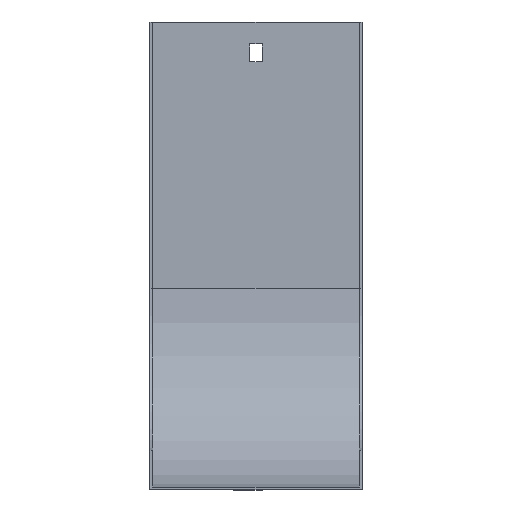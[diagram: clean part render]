
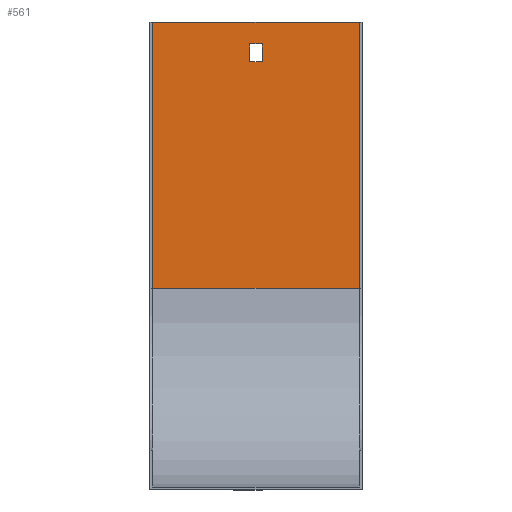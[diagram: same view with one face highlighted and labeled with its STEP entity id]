
A CAD part, front view. The second image highlights one B-rep face of the part: STEP entity #561.
In plain terms, the highlighted planar face has unit normal (0, -1, 0).
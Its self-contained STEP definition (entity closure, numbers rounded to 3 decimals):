
#1 = CARTESIAN_POINT ( 'NONE',  ( 52., -1.5, -134. ) ) ;
#12 = CARTESIAN_POINT ( 'NONE',  ( -52., -1.5, -134. ) ) ;
#35 = VECTOR ( 'NONE', #171, 1000. ) ;
#37 = CARTESIAN_POINT ( 'NONE',  ( 52., -1.5, -134. ) ) ;
#79 = CARTESIAN_POINT ( 'NONE',  ( 53.5, -1.5, 0. ) ) ;
#96 = DIRECTION ( 'NONE',  ( -1., 0., 0. ) ) ;
#108 = VECTOR ( 'NONE', #612, 1000. ) ;
#112 = VERTEX_POINT ( 'NONE', #241 ) ;
#118 = VERTEX_POINT ( 'NONE', #721 ) ;
#121 = AXIS2_PLACEMENT_3D ( 'NONE', #79, #400, #583 ) ;
#127 = CARTESIAN_POINT ( 'NONE',  ( -52., -1.5, -134. ) ) ;
#135 = ORIENTED_EDGE ( 'NONE', *, *, #862, .F. ) ;
#142 = FACE_BOUND ( 'NONE', #734, .T. ) ;
#166 = ORIENTED_EDGE ( 'NONE', *, *, #808, .F. ) ;
#171 = DIRECTION ( 'NONE',  ( 0., 0., 1. ) ) ;
#183 = EDGE_CURVE ( 'NONE', #724, #643, #456, .T. ) ;
#189 = VECTOR ( 'NONE', #390, 1000. ) ;
#209 = ORIENTED_EDGE ( 'NONE', *, *, #331, .F. ) ;
#216 = CARTESIAN_POINT ( 'NONE',  ( -3.25, -1.5, 0. ) ) ;
#241 = CARTESIAN_POINT ( 'NONE',  ( -3.25, -1.5, -11. ) ) ;
#243 = CARTESIAN_POINT ( 'NONE',  ( 53.5, -1.5, -134. ) ) ;
#253 = VERTEX_POINT ( 'NONE', #467 ) ;
#264 = EDGE_CURVE ( 'NONE', #118, #112, #338, .T. ) ;
#283 = LINE ( 'NONE', #550, #364 ) ;
#285 = VERTEX_POINT ( 'NONE', #1 ) ;
#287 = DIRECTION ( 'NONE',  ( 1., 0., 0. ) ) ;
#307 = ORIENTED_EDGE ( 'NONE', *, *, #686, .T. ) ;
#331 = EDGE_CURVE ( 'NONE', #253, #791, #348, .T. ) ;
#338 = LINE ( 'NONE', #719, #189 ) ;
#348 = LINE ( 'NONE', #420, #754 ) ;
#364 = VECTOR ( 'NONE', #96, 1000. ) ;
#385 = DIRECTION ( 'NONE',  ( 0., 0., 1. ) ) ;
#390 = DIRECTION ( 'NONE',  ( -1., 0., 0. ) ) ;
#400 = DIRECTION ( 'NONE',  ( 0., -1., 0. ) ) ;
#420 = CARTESIAN_POINT ( 'NONE',  ( 53.5, -1.5, -20. ) ) ;
#455 = VECTOR ( 'NONE', #385, 1000. ) ;
#456 = LINE ( 'NONE', #127, #455 ) ;
#459 = PLANE ( 'NONE',  #121 ) ;
#461 = ORIENTED_EDGE ( 'NONE', *, *, #709, .F. ) ;
#467 = CARTESIAN_POINT ( 'NONE',  ( -3.25, -1.5, -20. ) ) ;
#475 = ORIENTED_EDGE ( 'NONE', *, *, #837, .T. ) ;
#511 = CARTESIAN_POINT ( 'NONE',  ( 3.25, -1.5, 0. ) ) ;
#527 = VECTOR ( 'NONE', #762, 1000. ) ;
#550 = CARTESIAN_POINT ( 'NONE',  ( 53.5, -1.5, 0. ) ) ;
#561 = ADVANCED_FACE ( 'NONE', ( #142, #785 ), #459, .T. ) ;
#564 = CARTESIAN_POINT ( 'NONE',  ( 3.25, -1.5, -20. ) ) ;
#583 = DIRECTION ( 'NONE',  ( 0., 0., -1. ) ) ;
#592 = VERTEX_POINT ( 'NONE', #795 ) ;
#602 = LINE ( 'NONE', #216, #108 ) ;
#612 = DIRECTION ( 'NONE',  ( 0., 0., -1. ) ) ;
#622 = LINE ( 'NONE', #37, #527 ) ;
#625 = VECTOR ( 'NONE', #844, 1000. ) ;
#636 = LINE ( 'NONE', #511, #35 ) ;
#643 = VERTEX_POINT ( 'NONE', #658 ) ;
#658 = CARTESIAN_POINT ( 'NONE',  ( -52., -1.5, 0. ) ) ;
#686 = EDGE_CURVE ( 'NONE', #592, #643, #283, .T. ) ;
#709 = EDGE_CURVE ( 'NONE', #112, #253, #602, .T. ) ;
#719 = CARTESIAN_POINT ( 'NONE',  ( 53.5, -1.5, -11. ) ) ;
#720 = EDGE_LOOP ( 'NONE', ( #851, #135, #475, #307 ) ) ;
#721 = CARTESIAN_POINT ( 'NONE',  ( 3.25, -1.5, -11. ) ) ;
#724 = VERTEX_POINT ( 'NONE', #12 ) ;
#734 = EDGE_LOOP ( 'NONE', ( #461, #832, #166, #209 ) ) ;
#754 = VECTOR ( 'NONE', #287, 1000. ) ;
#762 = DIRECTION ( 'NONE',  ( 0., 0., 1. ) ) ;
#785 = FACE_OUTER_BOUND ( 'NONE', #720, .T. ) ;
#791 = VERTEX_POINT ( 'NONE', #564 ) ;
#795 = CARTESIAN_POINT ( 'NONE',  ( 52., -1.5, 0. ) ) ;
#808 = EDGE_CURVE ( 'NONE', #791, #118, #636, .T. ) ;
#832 = ORIENTED_EDGE ( 'NONE', *, *, #264, .F. ) ;
#837 = EDGE_CURVE ( 'NONE', #285, #592, #622, .T. ) ;
#839 = LINE ( 'NONE', #243, #625 ) ;
#844 = DIRECTION ( 'NONE',  ( -1., 0., 0. ) ) ;
#851 = ORIENTED_EDGE ( 'NONE', *, *, #183, .F. ) ;
#862 = EDGE_CURVE ( 'NONE', #285, #724, #839, .T. ) ;
